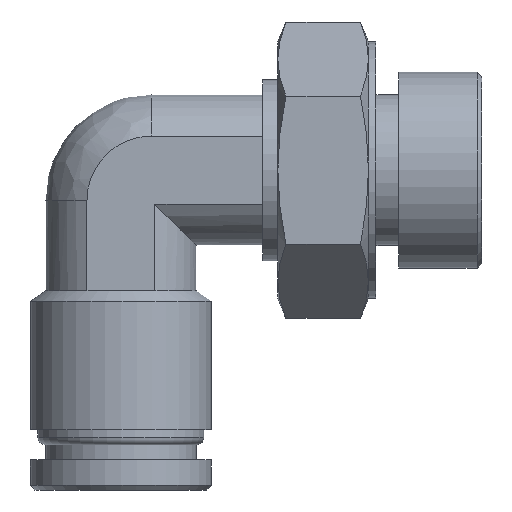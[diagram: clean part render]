
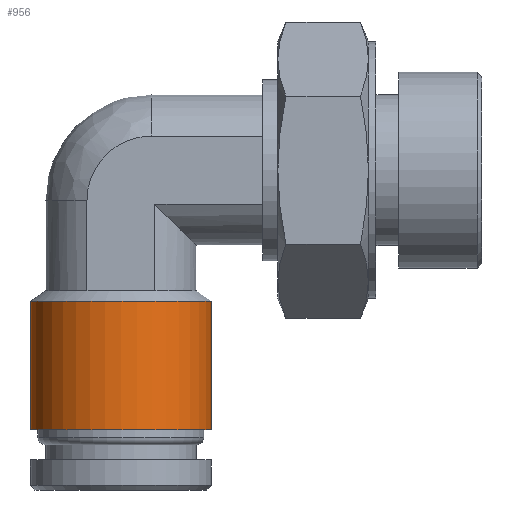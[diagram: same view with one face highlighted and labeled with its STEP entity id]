
A CAD part, left-side view. The second image highlights one B-rep face of the part: STEP entity #956.
In plain terms, the highlighted cylindrical face has radius 6 mm (diameter 12 mm), a full revolution.
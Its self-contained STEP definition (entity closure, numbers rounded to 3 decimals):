
#166=FACE_OUTER_BOUND('',#241,.T.);
#241=EDGE_LOOP('',(#823,#824,#825,#826));
#281=LINE('',#1791,#315);
#315=VECTOR('',#1436,6.);
#383=CIRCLE('',#1146,6.);
#386=CIRCLE('',#1152,6.);
#468=VERTEX_POINT('',#1778);
#470=VERTEX_POINT('',#1788);
#588=EDGE_CURVE('',#468,#468,#383,.T.);
#592=EDGE_CURVE('',#470,#470,#386,.T.);
#593=EDGE_CURVE('',#468,#470,#281,.T.);
#823=ORIENTED_EDGE('',*,*,#588,.F.);
#824=ORIENTED_EDGE('',*,*,#593,.T.);
#825=ORIENTED_EDGE('',*,*,#592,.T.);
#826=ORIENTED_EDGE('',*,*,#593,.F.);
#900=CYLINDRICAL_SURFACE('',#1153,6.);
#956=ADVANCED_FACE('',(#166),#900,.T.);
#1146=AXIS2_PLACEMENT_3D('',#1780,#1419,#1420);
#1152=AXIS2_PLACEMENT_3D('',#1789,#1432,#1433);
#1153=AXIS2_PLACEMENT_3D('',#1790,#1434,#1435);
#1419=DIRECTION('center_axis',(0.,0.,1.));
#1420=DIRECTION('ref_axis',(1.,0.,0.));
#1432=DIRECTION('center_axis',(0.,0.,1.));
#1433=DIRECTION('ref_axis',(1.,0.,0.));
#1434=DIRECTION('center_axis',(0.,0.,1.));
#1435=DIRECTION('ref_axis',(0.,-1.,0.));
#1436=DIRECTION('',(0.,0.,-1.));
#1778=CARTESIAN_POINT('',(0.,15.4,-8.7));
#1780=CARTESIAN_POINT('Origin',(0.,9.4,-8.7));
#1788=CARTESIAN_POINT('',(0.,15.4,-17.2));
#1789=CARTESIAN_POINT('Origin',(0.,9.4,-17.2));
#1790=CARTESIAN_POINT('Origin',(0.,9.4,-12.95));
#1791=CARTESIAN_POINT('',(0.,15.4,-12.95));
